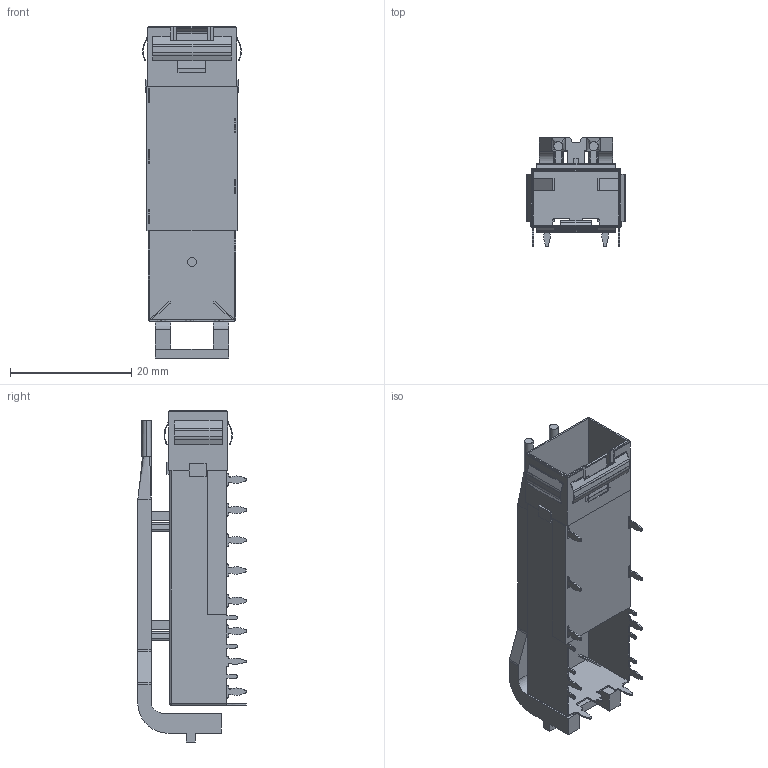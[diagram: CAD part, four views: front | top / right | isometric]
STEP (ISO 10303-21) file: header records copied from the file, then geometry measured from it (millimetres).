
FILE_DESCRIPTION (( 'STEP AP203' ), '1' );
FILE_NAME ('SFP+ 1X2短鱼眼 无月牙 13.57高导光柱（3D-20230728）.STEP', '2023-07-28T05:41:55', ( '桑三博客' ), ( 'Www.SangSan.Cn' ), 'SwSTEP 2.0', 'SolidWorks 2018', '' );
FILE_SCHEMA (( 'CONFIG_CONTROL_DESIGN' ));
Length unit declared in the file: millimetre
Products named in the file (1): SFP+ 1X2短鱼眼 无月牙 13.57高导光柱（3D-20230728）
Bounding box: 16.3 x 17.92 x 54.82 mm (x, y, z)
Volume: 1398.7 mm3; surface area: 6263.9 mm2
Topology: 1 solids, 1 shells, 591 faces, 1751 edges, 1166 vertices
Faces by surface type: plane 322, cylinder 243, torus 16, bspline 8, sphere 2
Entity records: 20058 total; most frequent: CARTESIAN_POINT 3659, ORIENTED_EDGE 3498, DIRECTION 3427, EDGE_CURVE 1749, LINE 1239, VECTOR 1239, VERTEX_POINT 1166, AXIS2_PLACEMENT_3D 1094
